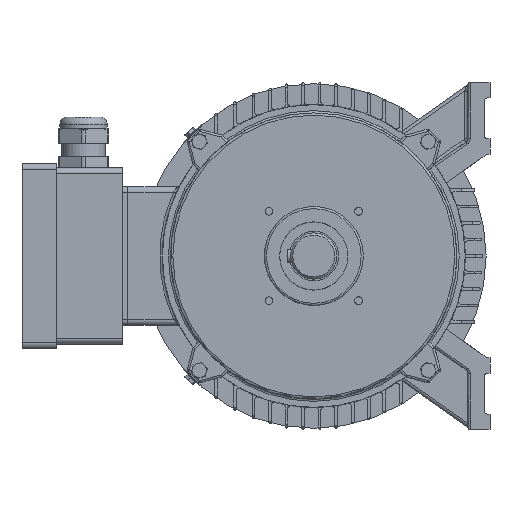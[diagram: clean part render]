
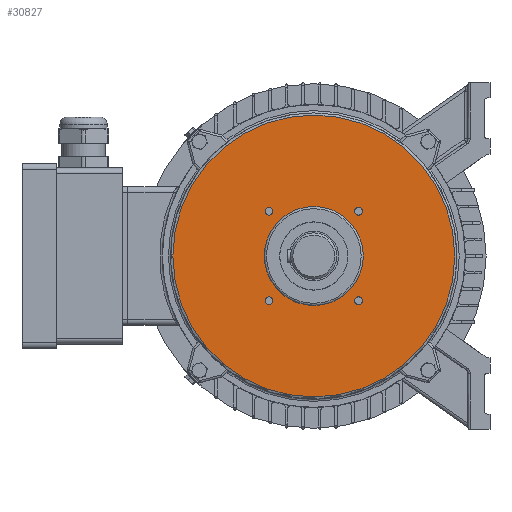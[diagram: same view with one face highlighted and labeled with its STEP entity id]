
A CAD part, left-side view. The second image highlights one B-rep face of the part: STEP entity #30827.
In plain terms, the highlighted planar face has unit normal (-1, 0, 0).
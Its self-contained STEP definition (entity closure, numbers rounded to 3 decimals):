
#7332=PLANE('',#32947);
#7940=FACE_BOUND('',#11048,.T.);
#7941=FACE_BOUND('',#11049,.T.);
#7942=FACE_BOUND('',#11050,.T.);
#7943=FACE_BOUND('',#11051,.T.);
#7944=FACE_BOUND('',#11052,.T.);
#9133=FACE_OUTER_BOUND('',#11047,.T.);
#11047=EDGE_LOOP('',(#24959));
#11048=EDGE_LOOP('',(#24960));
#11049=EDGE_LOOP('',(#24961));
#11050=EDGE_LOOP('',(#24962));
#11051=EDGE_LOOP('',(#24963));
#11052=EDGE_LOOP('',(#24964));
#12089=CIRCLE('',#32941,45.);
#12091=CIRCLE('',#32945,128.);
#12093=CIRCLE('',#32948,3.5);
#12094=CIRCLE('',#32949,3.5);
#12095=CIRCLE('',#32950,3.5);
#12096=CIRCLE('',#32951,3.5);
#14544=VERTEX_POINT('',#49577);
#14546=VERTEX_POINT('',#49583);
#14548=VERTEX_POINT('',#49588);
#14549=VERTEX_POINT('',#49590);
#14550=VERTEX_POINT('',#49592);
#14551=VERTEX_POINT('',#49594);
#18215=EDGE_CURVE('',#14544,#14544,#12089,.T.);
#18217=EDGE_CURVE('',#14546,#14546,#12091,.T.);
#18219=EDGE_CURVE('',#14548,#14548,#12093,.T.);
#18220=EDGE_CURVE('',#14549,#14549,#12094,.T.);
#18221=EDGE_CURVE('',#14550,#14550,#12095,.T.);
#18222=EDGE_CURVE('',#14551,#14551,#12096,.T.);
#24959=ORIENTED_EDGE('',*,*,#18217,.F.);
#24960=ORIENTED_EDGE('',*,*,#18215,.F.);
#24961=ORIENTED_EDGE('',*,*,#18219,.T.);
#24962=ORIENTED_EDGE('',*,*,#18220,.T.);
#24963=ORIENTED_EDGE('',*,*,#18221,.T.);
#24964=ORIENTED_EDGE('',*,*,#18222,.T.);
#30827=ADVANCED_FACE('',(#9133,#7940,#7941,#7942,#7943,#7944),#7332,.F.);
#32941=AXIS2_PLACEMENT_3D('',#49578,#39346,#39347);
#32945=AXIS2_PLACEMENT_3D('',#49584,#39354,#39355);
#32947=AXIS2_PLACEMENT_3D('',#49587,#39358,#39359);
#32948=AXIS2_PLACEMENT_3D('',#49589,#39360,#39361);
#32949=AXIS2_PLACEMENT_3D('',#49591,#39362,#39363);
#32950=AXIS2_PLACEMENT_3D('',#49593,#39364,#39365);
#32951=AXIS2_PLACEMENT_3D('',#49595,#39366,#39367);
#39346=DIRECTION('center_axis',(-1.,0.,0.));
#39347=DIRECTION('ref_axis',(0.,0.,-1.));
#39354=DIRECTION('center_axis',(1.,0.,0.));
#39355=DIRECTION('ref_axis',(0.,0.,
-1.));
#39358=DIRECTION('center_axis',(1.,0.,0.));
#39359=DIRECTION('ref_axis',(0.,0.,-1.));
#39360=DIRECTION('center_axis',(1.,0.,0.));
#39361=DIRECTION('ref_axis',(0.,0.,-1.));
#39362=DIRECTION('center_axis',(1.,0.,0.));
#39363=DIRECTION('ref_axis',(0.,1.,0.));
#39364=DIRECTION('center_axis',(1.,0.,0.));
#39365=DIRECTION('ref_axis',(0.,0.,1.));
#39366=DIRECTION('center_axis',(1.,0.,0.));
#39367=DIRECTION('ref_axis',(0.,-1.,0.));
#49577=CARTESIAN_POINT('',(127.1,0.,45.));
#49578=CARTESIAN_POINT('Origin',(127.1,0.,0.));
#49583=CARTESIAN_POINT('',(127.1,0.,128.));
#49584=CARTESIAN_POINT('Origin',(127.1,0.,0.));
#49587=CARTESIAN_POINT('Origin',(127.1,0.,0.));
#49588=CARTESIAN_POINT('',(127.1,40.659,44.159));
#49589=CARTESIAN_POINT('Origin',(127.1,40.659,40.659));
#49590=CARTESIAN_POINT('',(127.1,-44.159,40.659));
#49591=CARTESIAN_POINT('Origin',(127.1,-40.659,40.659));
#49592=CARTESIAN_POINT('',(127.1,-40.659,-44.159));
#49593=CARTESIAN_POINT('Origin',(127.1,-40.659,-40.659));
#49594=CARTESIAN_POINT('',(127.1,44.159,-40.659));
#49595=CARTESIAN_POINT('Origin',(127.1,40.659,-40.659));
